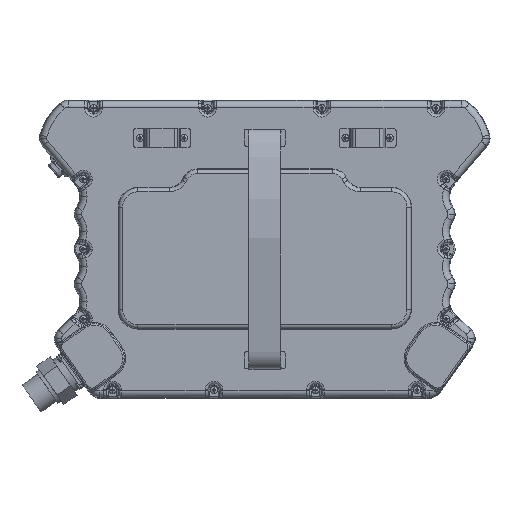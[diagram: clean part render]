
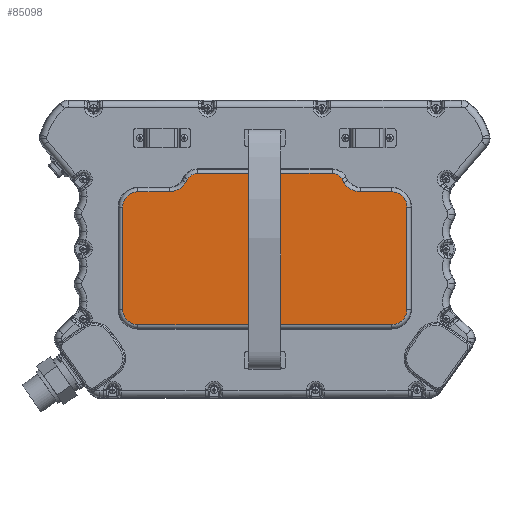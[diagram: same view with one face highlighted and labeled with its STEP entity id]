
A CAD part, top view. The second image highlights one B-rep face of the part: STEP entity #85098.
In plain terms, the highlighted planar face has unit normal (0, 0, 1).
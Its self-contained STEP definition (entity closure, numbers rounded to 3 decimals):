
#1087 = DIRECTION ( 'NONE',  ( 0., 0., 1. ) ) ;
#1666 = EDGE_CURVE ( 'NONE', #52296, #44082, #105644, .T. ) ;
#1730 = VECTOR ( 'NONE', #13043, 1000. ) ;
#2142 = EDGE_CURVE ( 'NONE', #29247, #102888, #10434, .T. ) ;
#2625 = CARTESIAN_POINT ( 'NONE',  ( -112.078, -47.5, 34. ) ) ;
#3258 = LINE ( 'NONE', #87089, #50833 ) ;
#3972 = VECTOR ( 'NONE', #64432, 1000. ) ;
#4563 = ORIENTED_EDGE ( 'NONE', *, *, #55395, .T. ) ;
#4700 = CARTESIAN_POINT ( 'NONE',  ( 100., 33., 34. ) ) ;
#6180 = DIRECTION ( 'NONE',  ( -1., 0., 0. ) ) ;
#6412 = VECTOR ( 'NONE', #22210, 1000. ) ;
#8522 = CARTESIAN_POINT ( 'NONE',  ( -100., 33., 34. ) ) ;
#9084 = LINE ( 'NONE', #71525, #6412 ) ;
#9318 = DIRECTION ( 'NONE',  ( -1., 0., 0. ) ) ;
#10111 = CARTESIAN_POINT ( 'NONE',  ( 62.377, 52.539, 34. ) ) ;
#10434 = CIRCLE ( 'NONE', #89009, 12.078 ) ;
#10600 = EDGE_CURVE ( 'NONE', #27084, #38662, #86561, .T. ) ;
#10843 = DIRECTION ( 'NONE',  ( 0., 0., 1. ) ) ;
#11295 = EDGE_CURVE ( 'NONE', #79117, #59629, #19446, .T. ) ;
#11884 = DIRECTION ( 'NONE',  ( 1., 0., 0. ) ) ;
#12259 = CARTESIAN_POINT ( 'NONE',  ( -100., -59.578, 34. ) ) ;
#13043 = DIRECTION ( 'NONE',  ( -1., 0., 0. ) ) ;
#13375 = ORIENTED_EDGE ( 'NONE', *, *, #2142, .T. ) ;
#14028 = ORIENTED_EDGE ( 'NONE', *, *, #11295, .T. ) ;
#14402 = VECTOR ( 'NONE', #16667, 1000. ) ;
#15193 = AXIS2_PLACEMENT_3D ( 'NONE', #105069, #22305, #79854 ) ;
#16667 = DIRECTION ( 'NONE',  ( 0., 1., 0. ) ) ;
#17168 = VECTOR ( 'NONE', #47818, 1000. ) ;
#19155 = DIRECTION ( 'NONE',  ( 0., 0., -1. ) ) ;
#19446 = CIRCLE ( 'NONE', #37832, 14.922 ) ;
#20681 = ORIENTED_EDGE ( 'NONE', *, *, #10600, .T. ) ;
#20997 = CARTESIAN_POINT ( 'NONE',  ( -112.078, 33., 34. ) ) ;
#21491 = VERTEX_POINT ( 'NONE', #20997 ) ;
#22105 = AXIS2_PLACEMENT_3D ( 'NONE', #8522, #81604, #50254 ) ;
#22210 = DIRECTION ( 'NONE',  ( -0.5, 0.866, 0. ) ) ;
#22305 = DIRECTION ( 'NONE',  ( 0., 0., 1. ) ) ;
#25435 = EDGE_CURVE ( 'NONE', #44082, #44484, #9084, .T. ) ;
#25634 = CARTESIAN_POINT ( 'NONE',  ( 112.078, 33., 34. ) ) ;
#27084 = VERTEX_POINT ( 'NONE', #100675 ) ;
#27388 = CARTESIAN_POINT ( 'NONE',  ( 100., -47.5, 34. ) ) ;
#27460 = PLANE ( 'NONE',  #47116 ) ;
#27522 = EDGE_LOOP ( 'NONE', ( #4563, #44505, #41475, #33028, #98699, #89518, #69598, #20681, #32665, #14028, #59812, #76459, #41779, #13375, #85223, #89173 ) ) ;
#28976 = LINE ( 'NONE', #58001, #86932 ) ;
#29247 = VERTEX_POINT ( 'NONE', #2625 ) ;
#31910 = EDGE_CURVE ( 'NONE', #44484, #96897, #80279, .T. ) ;
#31971 = CARTESIAN_POINT ( 'NONE',  ( 53.072, 50.5, 34. ) ) ;
#32252 = FACE_OUTER_BOUND ( 'NONE', #27522, .T. ) ;
#32665 = ORIENTED_EDGE ( 'NONE', *, *, #85177, .T. ) ;
#33028 = ORIENTED_EDGE ( 'NONE', *, *, #1666, .T. ) ;
#35455 = CIRCLE ( 'NONE', #22105, 12.078 ) ;
#37832 = AXIS2_PLACEMENT_3D ( 'NONE', #39651, #105520, #6180 ) ;
#38328 = EDGE_CURVE ( 'NONE', #51331, #83512, #49604, .T. ) ;
#38662 = VERTEX_POINT ( 'NONE', #90694 ) ;
#38691 = VERTEX_POINT ( 'NONE', #59270 ) ;
#39651 = CARTESIAN_POINT ( 'NONE',  ( -75.3, 60., 34. ) ) ;
#41475 = ORIENTED_EDGE ( 'NONE', *, *, #56527, .T. ) ;
#41779 = ORIENTED_EDGE ( 'NONE', *, *, #93457, .T. ) ;
#42486 = AXIS2_PLACEMENT_3D ( 'NONE', #4700, #45693, #87114 ) ;
#42497 = CARTESIAN_POINT ( 'NONE',  ( -75.3, 45.078, 34. ) ) ;
#43443 = AXIS2_PLACEMENT_3D ( 'NONE', #85380, #19155, #93321 ) ;
#44082 = VERTEX_POINT ( 'NONE', #10111 ) ;
#44484 = VERTEX_POINT ( 'NONE', #76942 ) ;
#44505 = ORIENTED_EDGE ( 'NONE', *, *, #38328, .T. ) ;
#44928 = CARTESIAN_POINT ( 'NONE',  ( 53.072, 59.578, 34. ) ) ;
#45693 = DIRECTION ( 'NONE',  ( 0., 0., 1. ) ) ;
#47116 = AXIS2_PLACEMENT_3D ( 'NONE', #51109, #94327, #99955 ) ;
#47818 = DIRECTION ( 'NONE',  ( -1., 0., 0. ) ) ;
#48168 = DIRECTION ( 'NONE',  ( 0., 0., 1. ) ) ;
#48999 = CARTESIAN_POINT ( 'NONE',  ( -100., 45.078, 34. ) ) ;
#49146 = CARTESIAN_POINT ( 'NONE',  ( 112.078, 33., 34. ) ) ;
#49604 = CIRCLE ( 'NONE', #42486, 12.078 ) ;
#50254 = DIRECTION ( 'NONE',  ( -1., 0., 0. ) ) ;
#50833 = VECTOR ( 'NONE', #11884, 1000. ) ;
#51109 = CARTESIAN_POINT ( 'NONE',  ( -100., 33., 34. ) ) ;
#51331 = VERTEX_POINT ( 'NONE', #49146 ) ;
#52296 = VERTEX_POINT ( 'NONE', #95154 ) ;
#52989 = EDGE_CURVE ( 'NONE', #59629, #98804, #104722, .T. ) ;
#55395 = EDGE_CURVE ( 'NONE', #38691, #51331, #74925, .T. ) ;
#55850 = CARTESIAN_POINT ( 'NONE',  ( 100., 45.078, 34. ) ) ;
#56091 = CARTESIAN_POINT ( 'NONE',  ( 100., -59.578, 34. ) ) ;
#56527 = EDGE_CURVE ( 'NONE', #83512, #52296, #73499, .T. ) ;
#56778 = DIRECTION ( 'NONE',  ( -1., 0., 0. ) ) ;
#58001 = CARTESIAN_POINT ( 'NONE',  ( -112.078, -47.5, 34. ) ) ;
#59270 = CARTESIAN_POINT ( 'NONE',  ( 112.078, -47.5, 34. ) ) ;
#59629 = VERTEX_POINT ( 'NONE', #42497 ) ;
#59812 = ORIENTED_EDGE ( 'NONE', *, *, #52989, .T. ) ;
#61829 = AXIS2_PLACEMENT_3D ( 'NONE', #31971, #48168, #56778 ) ;
#61923 = DIRECTION ( 'NONE',  ( -1., 0., 0. ) ) ;
#63257 = EDGE_CURVE ( 'NONE', #96897, #27084, #77621, .T. ) ;
#64432 = DIRECTION ( 'NONE',  ( -0.5, -0.866, 0. ) ) ;
#65168 = CARTESIAN_POINT ( 'NONE',  ( -62.377, 52.539, 34. ) ) ;
#65969 = DIRECTION ( 'NONE',  ( 0., -1., 0. ) ) ;
#67268 = EDGE_CURVE ( 'NONE', #89999, #38691, #96089, .T. ) ;
#69598 = ORIENTED_EDGE ( 'NONE', *, *, #63257, .T. ) ;
#71525 = CARTESIAN_POINT ( 'NONE',  ( 60.933, 55.039, 34. ) ) ;
#73499 = LINE ( 'NONE', #86416, #103075 ) ;
#74925 = LINE ( 'NONE', #25634, #14402 ) ;
#76459 = ORIENTED_EDGE ( 'NONE', *, *, #80099, .T. ) ;
#76942 = CARTESIAN_POINT ( 'NONE',  ( 60.933, 55.039, 34. ) ) ;
#77621 = LINE ( 'NONE', #79589, #1730 ) ;
#79117 = VERTEX_POINT ( 'NONE', #99187 ) ;
#79589 = CARTESIAN_POINT ( 'NONE',  ( -53.072, 59.578, 34. ) ) ;
#79854 = DIRECTION ( 'NONE',  ( -1., 0., 0. ) ) ;
#80099 = EDGE_CURVE ( 'NONE', #98804, #21491, #35455, .T. ) ;
#80246 = AXIS2_PLACEMENT_3D ( 'NONE', #27388, #10843, #92238 ) ;
#80279 = CIRCLE ( 'NONE', #61829, 9.078 ) ;
#81604 = DIRECTION ( 'NONE',  ( 0., 0., 1. ) ) ;
#82239 = EDGE_CURVE ( 'NONE', #102888, #89999, #3258, .T. ) ;
#83512 = VERTEX_POINT ( 'NONE', #55850 ) ;
#85098 = ADVANCED_FACE ( 'NONE', ( #32252 ), #27460, .F. ) ;
#85177 = EDGE_CURVE ( 'NONE', #38662, #79117, #88983, .T. ) ;
#85223 = ORIENTED_EDGE ( 'NONE', *, *, #82239, .T. ) ;
#85380 = CARTESIAN_POINT ( 'NONE',  ( 75.3, 60., 34. ) ) ;
#86416 = CARTESIAN_POINT ( 'NONE',  ( 75.3, 45.078, 34. ) ) ;
#86561 = CIRCLE ( 'NONE', #15193, 9.078 ) ;
#86932 = VECTOR ( 'NONE', #65969, 1000. ) ;
#87089 = CARTESIAN_POINT ( 'NONE',  ( 100., -59.578, 34. ) ) ;
#87114 = DIRECTION ( 'NONE',  ( -1., 0., 0. ) ) ;
#88983 = LINE ( 'NONE', #65168, #3972 ) ;
#89009 = AXIS2_PLACEMENT_3D ( 'NONE', #99655, #1087, #9318 ) ;
#89173 = ORIENTED_EDGE ( 'NONE', *, *, #67268, .T. ) ;
#89518 = ORIENTED_EDGE ( 'NONE', *, *, #31910, .T. ) ;
#89619 = CARTESIAN_POINT ( 'NONE',  ( -100., 45.078, 34. ) ) ;
#89999 = VERTEX_POINT ( 'NONE', #56091 ) ;
#90694 = CARTESIAN_POINT ( 'NONE',  ( -60.933, 55.039, 34. ) ) ;
#92238 = DIRECTION ( 'NONE',  ( -1., 0., 0. ) ) ;
#93321 = DIRECTION ( 'NONE',  ( -1., 0., 0. ) ) ;
#93457 = EDGE_CURVE ( 'NONE', #21491, #29247, #28976, .T. ) ;
#94327 = DIRECTION ( 'NONE',  ( 0., 0., -1. ) ) ;
#95154 = CARTESIAN_POINT ( 'NONE',  ( 75.3, 45.078, 34. ) ) ;
#96089 = CIRCLE ( 'NONE', #80246, 12.078 ) ;
#96897 = VERTEX_POINT ( 'NONE', #44928 ) ;
#98699 = ORIENTED_EDGE ( 'NONE', *, *, #25435, .T. ) ;
#98804 = VERTEX_POINT ( 'NONE', #48999 ) ;
#99187 = CARTESIAN_POINT ( 'NONE',  ( -62.377, 52.539, 34. ) ) ;
#99655 = CARTESIAN_POINT ( 'NONE',  ( -100., -47.5, 34. ) ) ;
#99955 = DIRECTION ( 'NONE',  ( -1., 0., 0. ) ) ;
#100675 = CARTESIAN_POINT ( 'NONE',  ( -53.072, 59.578, 34. ) ) ;
#102888 = VERTEX_POINT ( 'NONE', #12259 ) ;
#103075 = VECTOR ( 'NONE', #61923, 1000. ) ;
#104722 = LINE ( 'NONE', #89619, #17168 ) ;
#105069 = CARTESIAN_POINT ( 'NONE',  ( -53.072, 50.5, 34. ) ) ;
#105520 = DIRECTION ( 'NONE',  ( 0., 0., -1. ) ) ;
#105644 = CIRCLE ( 'NONE', #43443, 14.922 ) ;
